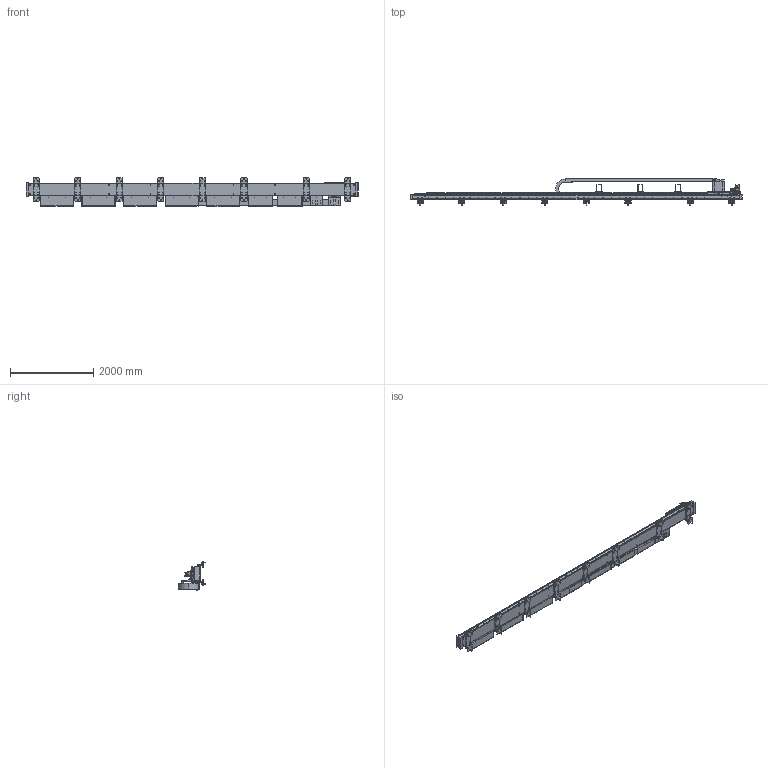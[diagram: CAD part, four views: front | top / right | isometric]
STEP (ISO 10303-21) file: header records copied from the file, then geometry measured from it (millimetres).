
FILE_DESCRIPTION (( 'STEP AP214' ), '1' );
FILE_NAME ('306535-700-1(TM1070_7000TR)_ŽÐŠOŒü‚¯.STEP', '2024-05-14T01:52:11', ( '' ), ( '' ), 'SwSTEP 2.0', 'SolidWorks 2021', '' );
FILE_SCHEMA (( 'AUTOMOTIVE_DESIGN' ));
Length unit declared in the file: millimetre
Products named in the file (3): 306535-700-1(TM1070_7000TR)_固定部; 306535-100-0_可動部 Assy_社外向け; 306535-700-1(TM1070_7000TR)_社外向け
Assembly tree (2 placements, depth 2):
  306535-700-1(TM1070_7000TR)_社外向け
    306535-700-1(TM1070_7000TR)_固定部
    306535-100-0_可動部 Assy_社外向け
Bounding box: 7994 x 662 x 682.5 mm (x, y, z)
Surface area: 26866427.4 mm2 (no closed solid volume)
Topology: 0 solids, 753 shells, 4086 faces, 15888 edges, 12322 vertices
Faces by surface type: plane 2465, cylinder 1258, cone 239, bspline 102, torus 20, sphere 2
Entity records: 222740 total; most frequent: CARTESIAN_POINT 40610, DIRECTION 30143, ORIENTED_EDGE 22447, EDGE_CURVE 15867, VERTEX_POINT 12322, AXIS2_PLACEMENT_3D 11064, LINE 8015, VECTOR 8015
